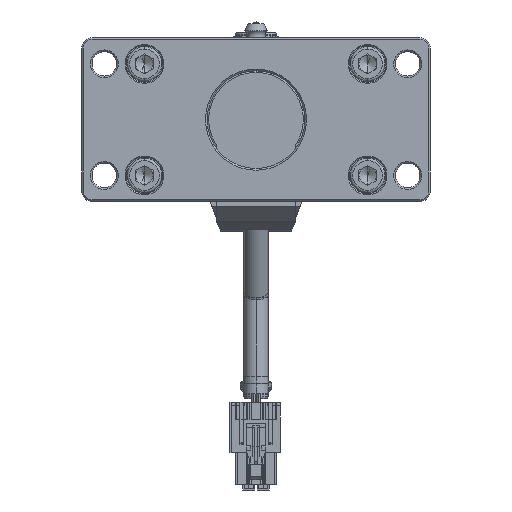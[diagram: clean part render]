
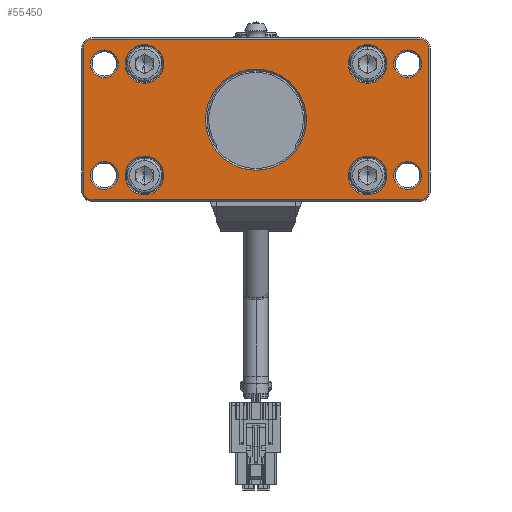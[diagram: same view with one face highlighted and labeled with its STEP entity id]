
A CAD part, front view. The second image highlights one B-rep face of the part: STEP entity #55450.
In plain terms, the highlighted planar face has unit normal (0, -1, 0) as drawn and (0, 1, 0) by its records, which use the part's own axes.
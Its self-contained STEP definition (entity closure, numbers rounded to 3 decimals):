
#53902=CARTESIAN_POINT('',(0.,6.,0.));
#53903=DIRECTION('',(0.,-1.,0.));
#53904=DIRECTION('',(1.,0.,0.));
#53905=AXIS2_PLACEMENT_3D('',#53902,#53903,#53904);
#53907=CARTESIAN_POINT('',(0.,6.,0.));
#53908=DIRECTION('',(0.,-1.,0.));
#53909=DIRECTION('',(-1.,0.,0.));
#53910=AXIS2_PLACEMENT_3D('',#53907,#53908,#53909);
#53912=CARTESIAN_POINT('',(-43.5,6.,-16.));
#53913=DIRECTION('',(0.,-1.,0.));
#53914=DIRECTION('',(-1.,0.,0.));
#53915=AXIS2_PLACEMENT_3D('',#53912,#53913,#53914);
#53917=CARTESIAN_POINT('',(-43.5,6.,-16.));
#53918=DIRECTION('',(0.,-1.,0.));
#53919=DIRECTION('',(1.,0.,0.));
#53920=AXIS2_PLACEMENT_3D('',#53917,#53918,#53919);
#53922=CARTESIAN_POINT('',(43.5,6.,-16.));
#53923=DIRECTION('',(0.,-1.,0.));
#53924=DIRECTION('',(-1.,0.,0.));
#53925=AXIS2_PLACEMENT_3D('',#53922,#53923,#53924);
#53927=CARTESIAN_POINT('',(43.5,6.,-16.));
#53928=DIRECTION('',(0.,-1.,0.));
#53929=DIRECTION('',(1.,0.,0.));
#53930=AXIS2_PLACEMENT_3D('',#53927,#53928,#53929);
#53932=CARTESIAN_POINT('',(43.5,6.,16.));
#53933=DIRECTION('',(0.,-1.,0.));
#53934=DIRECTION('',(1.,0.,0.));
#53935=AXIS2_PLACEMENT_3D('',#53932,#53933,#53934);
#53937=CARTESIAN_POINT('',(43.5,6.,16.));
#53938=DIRECTION('',(0.,-1.,0.));
#53939=DIRECTION('',(-1.,0.,0.));
#53940=AXIS2_PLACEMENT_3D('',#53937,#53938,#53939);
#53942=CARTESIAN_POINT('',(-43.5,6.,16.));
#53943=DIRECTION('',(0.,-1.,0.));
#53944=DIRECTION('',(-1.,0.,0.));
#53945=AXIS2_PLACEMENT_3D('',#53942,#53943,#53944);
#53947=CARTESIAN_POINT('',(-43.5,6.,16.));
#53948=DIRECTION('',(0.,-1.,0.));
#53949=DIRECTION('',(1.,0.,0.));
#53950=AXIS2_PLACEMENT_3D('',#53947,#53948,#53949);
#53952=CARTESIAN_POINT('',(-47.,6.,-20.5));
#53953=DIRECTION('',(0.,1.,0.));
#53954=DIRECTION('',(0.,0.,-1.));
#53955=AXIS2_PLACEMENT_3D('',#53952,#53953,#53954);
#53957=DIRECTION('',(-1.,0.,0.));
#53958=VECTOR('',#53957,94.);
#53959=CARTESIAN_POINT('',(47.,6.,
-23.));
#53960=LINE('',#53959,#53958);
#53961=CARTESIAN_POINT('',(47.,6.,-20.5));
#53962=DIRECTION('',(0.,1.,0.));
#53963=DIRECTION('',(1.,0.,0.));
#53964=AXIS2_PLACEMENT_3D('',#53961,#53962,#53963);
#53966=DIRECTION('',(0.,0.,-1.));
#53967=VECTOR('',#53966,41.);
#53968=CARTESIAN_POINT('',(49.5,6.,20.5));
#53969=LINE('',#53968,#53967);
#53970=CARTESIAN_POINT('',(47.,6.,20.5));
#53971=DIRECTION('',(0.,1.,0.));
#53972=DIRECTION('',(0.,0.,1.));
#53973=AXIS2_PLACEMENT_3D('',#53970,#53971,#53972);
#53975=DIRECTION('',(1.,0.,0.));
#53976=VECTOR('',#53975,94.);
#53977=CARTESIAN_POINT('',(-47.,6.,
23.));
#53978=LINE('',#53977,#53976);
#53979=CARTESIAN_POINT('',(-47.,6.,20.5));
#53980=DIRECTION('',(0.,1.,0.));
#53981=DIRECTION('',(-1.,0.,0.));
#53982=AXIS2_PLACEMENT_3D('',#53979,#53980,#53981);
#53984=DIRECTION('',(0.,0.,1.));
#53985=VECTOR('',#53984,41.);
#53986=CARTESIAN_POINT('',(-49.5,6.,
-20.5));
#53987=LINE('',#53986,#53985);
#53988=CARTESIAN_POINT('',(32.,6.,16.));
#53989=DIRECTION('',(0.,-1.,0.));
#53990=DIRECTION('',(1.,0.,0.));
#53991=AXIS2_PLACEMENT_3D('',#53988,#53989,#53990);
#53993=CARTESIAN_POINT('',(32.,6.,16.));
#53994=DIRECTION('',(0.,-1.,0.));
#53995=DIRECTION('',(-1.,0.,0.));
#53996=AXIS2_PLACEMENT_3D('',#53993,#53994,#53995);
#53998=CARTESIAN_POINT('',(-32.,6.,16.));
#53999=DIRECTION('',(0.,-1.,0.));
#54000=DIRECTION('',(1.,0.,0.));
#54001=AXIS2_PLACEMENT_3D('',#53998,#53999,#54000);
#54003=CARTESIAN_POINT('',(-32.,6.,16.));
#54004=DIRECTION('',(0.,-1.,0.));
#54005=DIRECTION('',(-1.,0.,0.));
#54006=AXIS2_PLACEMENT_3D('',#54003,#54004,#54005);
#54008=CARTESIAN_POINT('',(32.,6.,-16.));
#54009=DIRECTION('',(0.,-1.,0.));
#54010=DIRECTION('',(1.,0.,0.));
#54011=AXIS2_PLACEMENT_3D('',#54008,#54009,#54010);
#54013=CARTESIAN_POINT('',(32.,6.,-16.));
#54014=DIRECTION('',(0.,-1.,0.));
#54015=DIRECTION('',(-1.,0.,0.));
#54016=AXIS2_PLACEMENT_3D('',#54013,#54014,#54015);
#54018=CARTESIAN_POINT('',(-32.,6.,-16.));
#54019=DIRECTION('',(0.,-1.,0.));
#54020=DIRECTION('',(1.,0.,0.));
#54021=AXIS2_PLACEMENT_3D('',#54018,#54019,#54020);
#54023=CARTESIAN_POINT('',(-32.,6.,-16.));
#54024=DIRECTION('',(0.,-1.,0.));
#54025=DIRECTION('',(-1.,0.,0.));
#54026=AXIS2_PLACEMENT_3D('',#54023,#54024,#54025);
#54934=CARTESIAN_POINT('',(14.5,6.,0.));
#54935=CARTESIAN_POINT('',(-14.5,6.,0.));
#54936=VERTEX_POINT('',#54934);
#54937=VERTEX_POINT('',#54935);
#54950=CARTESIAN_POINT('',(-47.5,6.,-16.));
#54951=CARTESIAN_POINT('',(-39.5,6.,-16.));
#54952=VERTEX_POINT('',#54950);
#54953=VERTEX_POINT('',#54951);
#54958=CARTESIAN_POINT('',(39.5,6.,-16.));
#54959=CARTESIAN_POINT('',(47.5,6.,-16.));
#54960=VERTEX_POINT('',#54958);
#54961=VERTEX_POINT('',#54959);
#54966=CARTESIAN_POINT('',(47.5,6.,16.));
#54967=CARTESIAN_POINT('',(39.5,6.,16.));
#54968=VERTEX_POINT('',#54966);
#54969=VERTEX_POINT('',#54967);
#54974=CARTESIAN_POINT('',(-47.5,6.,16.));
#54975=CARTESIAN_POINT('',(-39.5,6.,16.));
#54976=VERTEX_POINT('',#54974);
#54977=VERTEX_POINT('',#54975);
#55046=CARTESIAN_POINT('',(-47.,6.,-23.));
#55047=CARTESIAN_POINT('',(-49.5,6.,-20.5));
#55048=VERTEX_POINT('',#55046);
#55049=VERTEX_POINT('',#55047);
#55054=CARTESIAN_POINT('',(-49.5,6.,
20.5));
#55055=VERTEX_POINT('',#55054);
#55058=CARTESIAN_POINT('',(-47.,6.,23.));
#55059=VERTEX_POINT('',#55058);
#55062=CARTESIAN_POINT('',(47.,6.,23.));
#55063=VERTEX_POINT('',#55062);
#55066=CARTESIAN_POINT('',(49.5,6.,20.5));
#55067=VERTEX_POINT('',#55066);
#55070=CARTESIAN_POINT('',(49.5,6.,
-20.5));
#55071=VERTEX_POINT('',#55070);
#55074=CARTESIAN_POINT('',(47.,6.,-23.));
#55075=VERTEX_POINT('',#55074);
#55094=CARTESIAN_POINT('',(37.55,6.,16.));
#55095=CARTESIAN_POINT('',(26.45,6.,16.));
#55096=VERTEX_POINT('',#55094);
#55097=VERTEX_POINT('',#55095);
#55118=CARTESIAN_POINT('',(-26.45,6.,16.));
#55119=CARTESIAN_POINT('',(-37.55,6.,16.));
#55120=VERTEX_POINT('',#55118);
#55121=VERTEX_POINT('',#55119);
#55134=CARTESIAN_POINT('',(37.55,6.,-16.));
#55135=CARTESIAN_POINT('',(26.45,6.,-16.));
#55136=VERTEX_POINT('',#55134);
#55137=VERTEX_POINT('',#55135);
#55142=CARTESIAN_POINT('',(-26.45,6.,-16.));
#55143=CARTESIAN_POINT('',(-37.55,6.,-16.));
#55144=VERTEX_POINT('',#55142);
#55145=VERTEX_POINT('',#55143);
#55374=CARTESIAN_POINT('',(0.,6.,0.));
#55375=DIRECTION('',(0.,1.,0.));
#55376=DIRECTION('',(1.,0.,0.));
#55377=AXIS2_PLACEMENT_3D('',#55374,#55375,#55376);
#55378=PLANE('',#55377);
#55380=ORIENTED_EDGE('',*,*,#55379,.F.);
#55382=ORIENTED_EDGE('',*,*,#55381,.F.);
#55384=ORIENTED_EDGE('',*,*,#55383,.F.);
#55386=ORIENTED_EDGE('',*,*,#55385,.F.);
#55388=ORIENTED_EDGE('',*,*,#55387,.F.);
#55390=ORIENTED_EDGE('',*,*,#55389,.F.);
#55392=ORIENTED_EDGE('',*,*,#55391,.F.);
#55394=ORIENTED_EDGE('',*,*,#55393,.F.);
#55395=EDGE_LOOP('',(#55380,#55382,#55384,#55386,#55388,#55390,#55392,#55394));
#55396=FACE_OUTER_BOUND('',#55395,.F.);
#55398=ORIENTED_EDGE('',*,*,#55397,.F.);
#55400=ORIENTED_EDGE('',*,*,#55399,.F.);
#55401=EDGE_LOOP('',(#55398,#55400));
#55402=FACE_BOUND('',#55401,.F.);
#55404=ORIENTED_EDGE('',*,*,#55403,.F.);
#55406=ORIENTED_EDGE('',*,*,#55405,.F.);
#55407=EDGE_LOOP('',(#55404,#55406));
#55408=FACE_BOUND('',#55407,.F.);
#55410=ORIENTED_EDGE('',*,*,#55409,.F.);
#55412=ORIENTED_EDGE('',*,*,#55411,.F.);
#55413=EDGE_LOOP('',(#55410,#55412));
#55414=FACE_BOUND('',#55413,.F.);
#55416=ORIENTED_EDGE('',*,*,#55415,.F.);
#55418=ORIENTED_EDGE('',*,*,#55417,.F.);
#55419=EDGE_LOOP('',(#55416,#55418));
#55420=FACE_BOUND('',#55419,.F.);
#55422=ORIENTED_EDGE('',*,*,#55421,.F.);
#55423=ORIENTED_EDGE('',*,*,#55364,.F.);
#55424=EDGE_LOOP('',(#55422,#55423));
#55425=FACE_BOUND('',#55424,.F.);
#55427=ORIENTED_EDGE('',*,*,#55426,.F.);
#55429=ORIENTED_EDGE('',*,*,#55428,.F.);
#55430=EDGE_LOOP('',(#55427,#55429));
#55431=FACE_BOUND('',#55430,.F.);
#55433=ORIENTED_EDGE('',*,*,#55432,.F.);
#55435=ORIENTED_EDGE('',*,*,#55434,.F.);
#55436=EDGE_LOOP('',(#55433,#55435));
#55437=FACE_BOUND('',#55436,.F.);
#55439=ORIENTED_EDGE('',*,*,#55438,.F.);
#55441=ORIENTED_EDGE('',*,*,#55440,.F.);
#55442=EDGE_LOOP('',(#55439,#55441));
#55443=FACE_BOUND('',#55442,.F.);
#55445=ORIENTED_EDGE('',*,*,#55444,.F.);
#55447=ORIENTED_EDGE('',*,*,#55446,.F.);
#55448=EDGE_LOOP('',(#55445,#55447));
#55449=FACE_BOUND('',#55448,.F.);
#55450=ADVANCED_FACE('',(#55396,#55402,#55408,#55414,#55420,#55425,#55431,
#55437,#55443,#55449),#55378,.T.);
#53906=CIRCLE('',#53905,14.5);
#53911=CIRCLE('',#53910,14.5);
#53916=CIRCLE('',#53915,4.);
#53921=CIRCLE('',#53920,4.);
#53926=CIRCLE('',#53925,4.);
#53931=CIRCLE('',#53930,4.);
#53936=CIRCLE('',#53935,4.);
#53941=CIRCLE('',#53940,4.);
#53946=CIRCLE('',#53945,4.);
#53951=CIRCLE('',#53950,4.);
#53956=CIRCLE('',#53955,2.5);
#53965=CIRCLE('',#53964,2.5);
#53974=CIRCLE('',#53973,2.5);
#53983=CIRCLE('',#53982,2.5);
#53992=CIRCLE('',#53991,5.55);
#53997=CIRCLE('',#53996,5.55);
#54002=CIRCLE('',#54001,5.55);
#54007=CIRCLE('',#54006,5.55);
#54012=CIRCLE('',#54011,5.55);
#54017=CIRCLE('',#54016,5.55);
#54022=CIRCLE('',#54021,5.55);
#54027=CIRCLE('',#54026,5.55);
#55364=EDGE_CURVE('',#54937,#54936,#53911,.T.);
#55379=EDGE_CURVE('',#55048,#55049,#53956,.T.);
#55381=EDGE_CURVE('',#55075,#55048,#53960,.T.);
#55383=EDGE_CURVE('',#55071,#55075,#53965,.T.);
#55385=EDGE_CURVE('',#55067,#55071,#53969,.T.);
#55387=EDGE_CURVE('',#55063,#55067,#53974,.T.);
#55389=EDGE_CURVE('',#55059,#55063,#53978,.T.);
#55391=EDGE_CURVE('',#55055,#55059,#53983,.T.);
#55393=EDGE_CURVE('',#55049,#55055,#53987,.T.);
#55397=EDGE_CURVE('',#54952,#54953,#53916,.T.);
#55399=EDGE_CURVE('',#54953,#54952,#53921,.T.);
#55403=EDGE_CURVE('',#54960,#54961,#53926,.T.);
#55405=EDGE_CURVE('',#54961,#54960,#53931,.T.);
#55409=EDGE_CURVE('',#54968,#54969,#53936,.T.);
#55411=EDGE_CURVE('',#54969,#54968,#53941,.T.);
#55415=EDGE_CURVE('',#54976,#54977,#53946,.T.);
#55417=EDGE_CURVE('',#54977,#54976,#53951,.T.);
#55421=EDGE_CURVE('',#54936,#54937,#53906,.T.);
#55426=EDGE_CURVE('',#55096,#55097,#53992,.T.);
#55428=EDGE_CURVE('',#55097,#55096,#53997,.T.);
#55432=EDGE_CURVE('',#55120,#55121,#54002,.T.);
#55434=EDGE_CURVE('',#55121,#55120,#54007,.T.);
#55438=EDGE_CURVE('',#55136,#55137,#54012,.T.);
#55440=EDGE_CURVE('',#55137,#55136,#54017,.T.);
#55444=EDGE_CURVE('',#55144,#55145,#54022,.T.);
#55446=EDGE_CURVE('',#55145,#55144,#54027,.T.);
